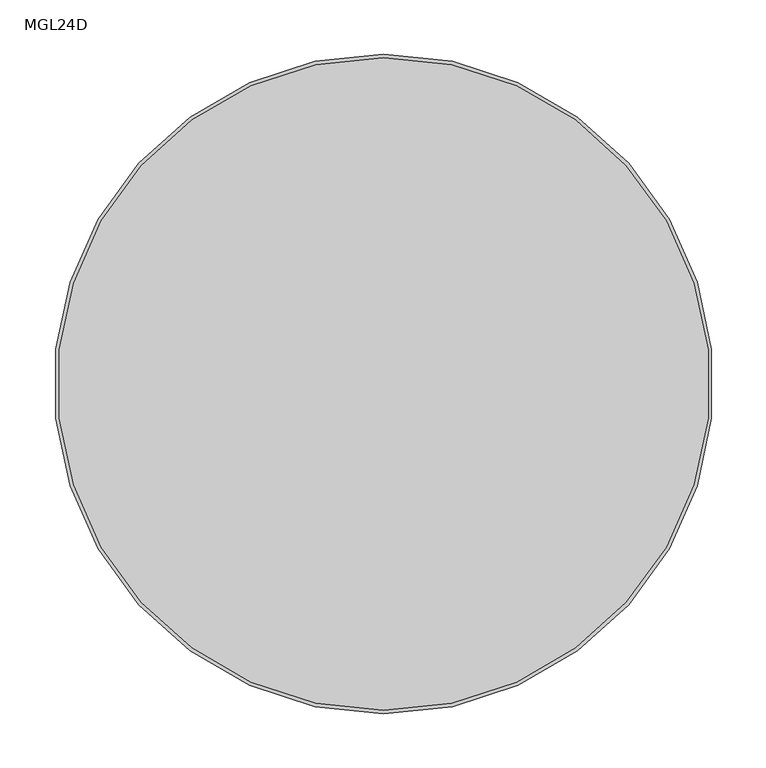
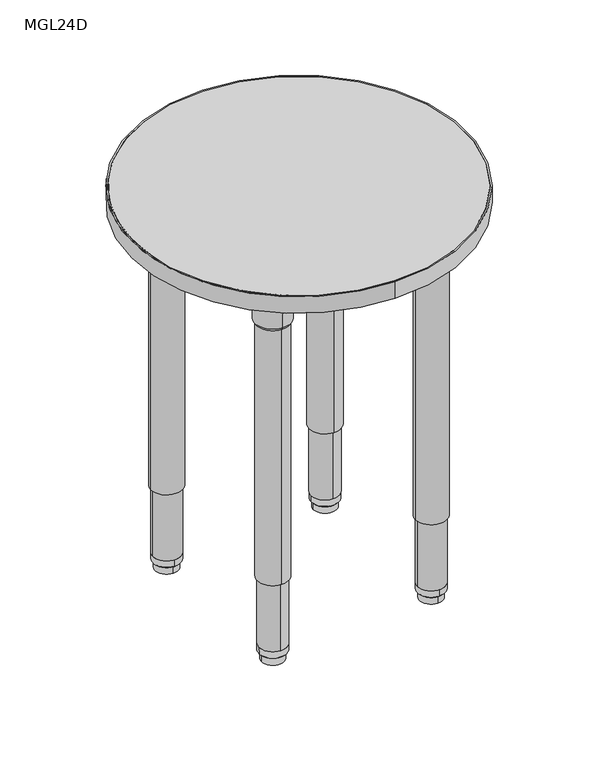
"""IFC4 building model written with IfcOpenShell, lengths in millimetres: furniture geometry, ERG-Mingle-Table-Round : MGL24D."""

from ifc_helpers import new_model, si_unit, point, frame, frame_2d, origin, origin_2d, place, context, project, spatial, polyline, circle_curve, trimmed, segment, composite_curve, outline, extrude, source, transform, mapped, element, save
from ifc_brep_helpers import plane_surface, cylinder_surface, revolved_surface, advanced_brep


def mgl24d_21a6063f(model_context):
    return source(origin(), model_context, "Body", "SolidModel", [
        advanced_brep(
        [(130.0897301, -139.9337798, 650.5933069), (190.1603617, -139.9337798, 650.5933069), (160.1250459, -139.9337798, 650.5933069), (127.9811628, -139.9337798, 654.3580481), (192.2689289, -139.9337798, 654.3580481), (127.045681, -139.9337798, 707.7631458), (193.2044107, -139.9337798, 707.7631458), (123.5961289, -139.9337798, 714.1198315), (196.6539629, -139.9337798, 714.1198315), (123.5961289, -139.9337798, 726.8198315), (196.6539629, -139.9337798, 726.8198315), (160.1250459, -139.9337798, 726.8198315)],
        [
            (0, 1, circle_curve(frame((160.1250459, -139.9337798, 650.5933069), z_axis=(0.0, 0.0, -1.0), x_axis=(1.0, 0.0, 0.0)), 30.0353158)),
            (1, 2),
            (2, 0),
            (1, 0, circle_curve(frame((160.1250459, -139.9337798, 650.5933069), z_axis=(0.0, 0.0, -1.0), x_axis=(1.0, 0.0, 0.0)), 30.0353158)),
            (3, 4, circle_curve(frame((160.1250459, -139.9337798, 654.3580481), z_axis=(0.0, 0.0, -1.0), x_axis=(1.0, 0.0, 0.0)), 32.143883)),
            (4, 1),
            (0, 3),
            (4, 3, circle_curve(frame((160.1250459, -139.9337798, 654.3580481), z_axis=(0.0, 0.0, -1.0), x_axis=(1.0, 0.0, 0.0)), 32.143883)),
            (5, 6, circle_curve(frame((160.1250459, -139.9337798, 707.7631458), z_axis=(0.0, 0.0, -1.0), x_axis=(1.0, 0.0, 0.0)), 33.0793649)),
            (6, 4),
            (3, 5),
            (6, 5, circle_curve(frame((160.1250459, -139.9337798, 707.7631458), z_axis=(0.0, 0.0, -1.0), x_axis=(1.0, 0.0, 0.0)), 33.0793649)),
            (7, 8, circle_curve(frame((160.1250459, -139.9337798, 714.1198315), z_axis=(0.0, 0.0, -1.0), x_axis=(1.0, 0.0, 0.0)), 36.528917)),
            (8, 6),
            (5, 7),
            (8, 7, circle_curve(frame((160.1250459, -139.9337798, 714.1198315), z_axis=(0.0, 0.0, -1.0), x_axis=(1.0, 0.0, 0.0)), 36.528917)),
            (9, 10, circle_curve(frame((160.1250459, -139.9337798, 726.8198315), z_axis=(0.0, 0.0, -1.0), x_axis=(1.0, 0.0, 0.0)), 36.528917)),
            (10, 8),
            (7, 9),
            (10, 9, circle_curve(frame((160.1250459, -139.9337798, 726.8198315), z_axis=(0.0, 0.0, -1.0), x_axis=(1.0, 0.0, 0.0)), 36.528917)),
            (11, 10),
            (9, 11),
        ],
        [
            plane_surface(frame((160.1250459, -139.9337798, 650.5933069), z_axis=(0.0, 0.0, -1.0), x_axis=(1.0, 0.0, 0.0))),
            revolved_surface(polyline([(190.1603617, -139.9337798, 650.5933069), (192.2689289, -139.9337798, 654.3580481)]), (160.1250459, -139.9337798, 726.8198315), (0.0, 0.0, 1.0)),
            revolved_surface(polyline([(192.2689289, -139.9337798, 654.3580481), (193.2044107, -139.9337798, 707.7631458)]), (160.1250459, -139.9337798, 726.8198315), (0.0, 0.0, 1.0)),
            revolved_surface(polyline([(193.2044107, -139.9337798, 707.7631458), (196.6539629, -139.9337798, 714.1198315)]), (160.1250459, -139.9337798, 726.8198315), (0.0, 0.0, 1.0)),
            cylinder_surface(frame((160.1250459, -139.9337798, 726.8198315), z_axis=(0.0, 0.0, 1.0), x_axis=(1.0, 0.0, 0.0)), 36.528917),
            plane_surface(frame((160.1250459, -139.9337798, 726.8198315), z_axis=(0.0, 0.0, 1.0), x_axis=(1.0, 0.0, 0.0))),
        ],
        [
            (0, [[1, 2, 3]]),
            (0, [[4, -3, -2]]),
            (1, [[5, 6, -1, 7]]),
            (1, [[8, -7, -4, -6]]),
            (2, [[9, 10, -5, 11]]),
            (2, [[12, -11, -8, -10]]),
            (3, [[13, 14, -9, 15]]),
            (3, [[16, -15, -12, -14]]),
            (4, [[17, 18, -13, 19]]),
            (4, [[20, -19, -16, -18]]),
            (5, [[21, -17, 22]]),
            (5, [[-22, -20, -21]]),
        ],
    ),
        extrude(outline(composite_curve([segment(polyline([(205.9988139, -57.3561224), (205.9988139, -171.0821553)]), True, "CONTINUOUS"), segment(trimmed(circle_curve(frame_2d((190.1238139, -171.0821553)), 15.875), [point((205.9988139, -171.0821553))], [point((190.1238139, -186.9571553))], False, "CARTESIAN"), True, "CONTINUOUS"), segment(polyline([(190.1238139, -186.9571553), (76.4114664, -186.9571553)]), True, "CONTINUOUS"), segment(trimmed(circle_curve(frame_2d((76.4114664, -174.2571553)), 12.7), [point((76.4114664, -186.9571553))], [point((63.7742382, -172.9960193))], False, "CARTESIAN"), True, "CONTINUOUS"), segment(trimmed(circle_curve(frame_2d((206.2736536, -187.2167915)), 143.2072406), [point((63.7742382, -172.9960193))], [point((192.0361984, -44.719042))], False, "CARTESIAN"), True, "CONTINUOUS"), segment(trimmed(circle_curve(frame_2d((193.2988139, -57.3561224)), 12.7), [point((192.0361984, -44.719042))], [point((205.9988139, -57.3561224))], False, "CARTESIAN"), True, "CONTINUOUS")], self_intersect=False)), frame((0.0, 0.0, 726.8198315), z_axis=(0.0, 0.0, 1.0), x_axis=(1.0, 0.0, 0.0)), (0.0, 0.0, 1.0), 3.4301685),
        extrude(outline(composite_curve([segment(trimmed(circle_curve(frame_2d((160.1250459, -139.9337798)), 28.575), [point((188.7000459, -139.9337798))], [point((131.5500459, -139.9337798))], False, "CARTESIAN"), True, "CONTINUOUS"), segment(trimmed(circle_curve(frame_2d((160.1250459, -139.9337798)), 28.575), [point((131.5500459, -139.9337798))], [point((188.7000459, -139.9337798))], False, "CARTESIAN"), True, "CONTINUOUS")], self_intersect=False)), frame((0.0, 0.0, 158.3876979), z_axis=(0.0, 0.0, 1.0), x_axis=(1.0, 0.0, 0.0)), (0.0, 0.0, 1.0), 495.4089866),
        extrude(outline(composite_curve([segment(trimmed(circle_curve(frame_2d((160.1250459, -139.9337798)), 25.4), [point((185.5250459, -139.9337798))], [point((134.7250459, -139.9337798))], False, "CARTESIAN"), True, "CONTINUOUS"), segment(trimmed(circle_curve(frame_2d((160.1250459, -139.9337798)), 25.4), [point((134.7250459, -139.9337798))], [point((185.5250459, -139.9337798))], False, "CARTESIAN"), True, "CONTINUOUS")], self_intersect=False)), frame((0.0, 0.0, 28.9580435), z_axis=(0.0, 0.0, 1.0), x_axis=(1.0, 0.0, 0.0)), (0.0, 0.0, 1.0), 176.7049119),
        advanced_brep(
        [(160.1250459, -114.6987695, 28.9580185), (160.1250459, -165.1687902, 28.9580185), (160.1250459, -139.9337798, 28.9580185), (160.1250459, -114.8345408, 16.3032949), (160.1250459, -165.0330188, 16.3032949), (160.1250459, -116.3498417, 14.7291007), (160.1250459, -163.517718, 14.7291007), (160.1250459, -118.7929221, 14.7291007), (160.1250459, -161.0746376, 14.7291007), (160.1250459, -118.9859135, 0.0), (160.1250459, -160.8816462, 0.0), (160.1250459, -139.9337798, 0.0)],
        [
            (0, 1, circle_curve(frame((160.1250459, -139.9337798, 28.9580185), z_axis=(0.0, 0.0, 1.0), x_axis=(0.0, -1.0, 0.0)), 25.2350104)),
            (1, 2),
            (2, 0),
            (1, 0, circle_curve(frame((160.1250459, -139.9337798, 28.9580185), z_axis=(0.0, 0.0, 1.0), x_axis=(0.0, -1.0, 0.0)), 25.2350104)),
            (3, 4, circle_curve(frame((160.1250459, -139.9337798, 16.3032949), z_axis=(0.0, 0.0, 1.0), x_axis=(0.0, -1.0, 0.0)), 25.099239)),
            (4, 1),
            (0, 3),
            (4, 3, circle_curve(frame((160.1250459, -139.9337798, 16.3032949), z_axis=(0.0, 0.0, 1.0), x_axis=(0.0, -1.0, 0.0)), 25.099239)),
            (5, 6, circle_curve(frame((160.1250459, -139.9337798, 14.7291007), z_axis=(0.0, 0.0, 1.0), x_axis=(0.0, -1.0, 0.0)), 23.5839381)),
            (6, 4),
            (3, 5),
            (6, 5, circle_curve(frame((160.1250459, -139.9337798, 14.7291007), z_axis=(0.0, 0.0, 1.0), x_axis=(0.0, -1.0, 0.0)), 23.5839381)),
            (7, 8, circle_curve(frame((160.1250459, -139.9337798, 14.7291007), z_axis=(0.0, 0.0, 1.0), x_axis=(0.0, -1.0, 0.0)), 21.1408578)),
            (8, 6),
            (5, 7),
            (8, 7, circle_curve(frame((160.1250459, -139.9337798, 14.7291007), z_axis=(0.0, 0.0, 1.0), x_axis=(0.0, -1.0, 0.0)), 21.1408578)),
            (9, 10, circle_curve(frame((160.1250459, -139.9337798, 0.0), z_axis=(0.0, 0.0, 1.0), x_axis=(0.0, -1.0, 0.0)), 20.9478664)),
            (10, 8),
            (7, 9),
            (10, 9, circle_curve(frame((160.1250459, -139.9337798, 0.0), z_axis=(0.0, 0.0, 1.0), x_axis=(0.0, -1.0, 0.0)), 20.9478664)),
            (11, 10),
            (9, 11),
        ],
        [
            plane_surface(frame((160.1250459, -139.9337798, 28.9580185), z_axis=(0.0, 0.0, 1.0), x_axis=(0.0, -1.0, 0.0))),
            revolved_surface(polyline([(160.1250459, -165.1687902, 28.9580185), (160.1250459, -165.0330188, 16.3032949)]), (160.1250459, -139.9337798, 0.0), (0.0, 0.0, -1.0)),
            revolved_surface(polyline([(160.1250459, -165.0330188, 16.3032949), (160.1250459, -163.517718, 14.7291007)]), (160.1250459, -139.9337798, 0.0), (0.0, 0.0, -1.0)),
            plane_surface(frame((160.1250459, -139.9337798, 14.7291007), z_axis=(0.0, 0.0, -1.0), x_axis=(0.0, -1.0, 0.0))),
            revolved_surface(polyline([(160.1250459, -161.0746376, 14.7291007), (160.1250459, -160.8816462, 0.0)]), (160.1250459, -139.9337798, 0.0), (0.0, 0.0, -1.0)),
            plane_surface(frame((160.1250459, -139.9337798, 0.0), z_axis=(0.0, 0.0, -1.0), x_axis=(0.0, -1.0, 0.0))),
        ],
        [
            (0, [[1, 2, 3]]),
            (0, [[4, -3, -2]]),
            (1, [[5, 6, -1, 7]]),
            (1, [[8, -7, -4, -6]]),
            (2, [[9, 10, -5, 11]]),
            (2, [[12, -11, -8, -10]]),
            (3, [[13, 14, -9, 15]]),
            (3, [[16, -15, -12, -14]]),
            (4, [[17, 18, -13, 19]]),
            (4, [[20, -19, -16, -18]]),
            (5, [[21, -17, 22]]),
            (5, [[-22, -20, -21]]),
        ],
    ),
        advanced_brep(
        [(-139.9337798, -130.0897301, 650.5933069), (-139.9337798, -190.1603617, 650.5933069), (-139.9337798, -160.1250459, 650.5933069), (-139.9337798, -127.9811628, 654.3580481), (-139.9337798, -192.2689289, 654.3580481), (-139.9337798, -127.045681, 707.7631458), (-139.9337798, -193.2044107, 707.7631458), (-139.9337798, -123.5961289, 714.1198315), (-139.9337798, -196.6539629, 714.1198315), (-139.9337798, -123.5961289, 726.8198315), (-139.9337798, -196.6539629, 726.8198315), (-139.9337798, -160.1250459, 726.8198315)],
        [
            (0, 1, circle_curve(frame((-139.9337798, -160.1250459, 650.5933069), z_axis=(0.0, 0.0, -1.0), x_axis=(0.0, -1.0, 0.0)), 30.0353158)),
            (1, 2),
            (2, 0),
            (1, 0, circle_curve(frame((-139.9337798, -160.1250459, 650.5933069), z_axis=(0.0, 0.0, -1.0), x_axis=(0.0, -1.0, 0.0)), 30.0353158)),
            (3, 4, circle_curve(frame((-139.9337798, -160.1250459, 654.3580481), z_axis=(0.0, 0.0, -1.0), x_axis=(0.0, -1.0, 0.0)), 32.143883)),
            (4, 1),
            (0, 3),
            (4, 3, circle_curve(frame((-139.9337798, -160.1250459, 654.3580481), z_axis=(0.0, 0.0, -1.0), x_axis=(0.0, -1.0, 0.0)), 32.143883)),
            (5, 6, circle_curve(frame((-139.9337798, -160.1250459, 707.7631458), z_axis=(0.0, 0.0, -1.0), x_axis=(0.0, -1.0, 0.0)), 33.0793649)),
            (6, 4),
            (3, 5),
            (6, 5, circle_curve(frame((-139.9337798, -160.1250459, 707.7631458), z_axis=(0.0, 0.0, -1.0), x_axis=(0.0, -1.0, 0.0)), 33.0793649)),
            (7, 8, circle_curve(frame((-139.9337798, -160.1250459, 714.1198315), z_axis=(0.0, 0.0, -1.0), x_axis=(0.0, -1.0, 0.0)), 36.528917)),
            (8, 6),
            (5, 7),
            (8, 7, circle_curve(frame((-139.9337798, -160.1250459, 714.1198315), z_axis=(0.0, 0.0, -1.0), x_axis=(0.0, -1.0, 0.0)), 36.528917)),
            (9, 10, circle_curve(frame((-139.9337798, -160.1250459, 726.8198315), z_axis=(0.0, 0.0, -1.0), x_axis=(0.0, -1.0, 0.0)), 36.528917)),
            (10, 8),
            (7, 9),
            (10, 9, circle_curve(frame((-139.9337798, -160.1250459, 726.8198315), z_axis=(0.0, 0.0, -1.0), x_axis=(0.0, -1.0, 0.0)), 36.528917)),
            (11, 10),
            (9, 11),
        ],
        [
            plane_surface(frame((-139.9337798, -160.1250459, 650.5933069), z_axis=(0.0, 0.0, -1.0), x_axis=(0.0, -1.0, 0.0))),
            revolved_surface(polyline([(-139.9337798, -190.1603617, 650.5933069), (-139.9337798, -192.2689289, 654.3580481)]), (-139.9337798, -160.1250459, 726.8198315), (0.0, 0.0, 1.0)),
            revolved_surface(polyline([(-139.9337798, -192.2689289, 654.3580481), (-139.9337798, -193.2044107, 707.7631458)]), (-139.9337798, -160.1250459, 726.8198315), (0.0, 0.0, 1.0)),
            revolved_surface(polyline([(-139.9337798, -193.2044107, 707.7631458), (-139.9337798, -196.6539629, 714.1198315)]), (-139.9337798, -160.1250459, 726.8198315), (0.0, 0.0, 1.0)),
            cylinder_surface(frame((-139.9337798, -160.1250459, 726.8198315), z_axis=(0.0, 0.0, 1.0), x_axis=(0.0, -1.0, 0.0)), 36.528917),
            plane_surface(frame((-139.9337798, -160.1250459, 726.8198315), z_axis=(0.0, 0.0, 1.0), x_axis=(0.0, -1.0, 0.0))),
        ],
        [
            (0, [[1, 2, 3]]),
            (0, [[4, -3, -2]]),
            (1, [[5, 6, -1, 7]]),
            (1, [[8, -7, -4, -6]]),
            (2, [[9, 10, -5, 11]]),
            (2, [[12, -11, -8, -10]]),
            (3, [[13, 14, -9, 15]]),
            (3, [[16, -15, -12, -14]]),
            (4, [[17, 18, -13, 19]]),
            (4, [[20, -19, -16, -18]]),
            (5, [[21, -17, 22]]),
            (5, [[-22, -20, -21]]),
        ],
    ),
        extrude(outline(composite_curve([segment(polyline([(-57.3561224, -205.9988139), (-171.0821553, -205.9988139)]), True, "CONTINUOUS"), segment(trimmed(circle_curve(frame_2d((-171.0821553, -190.1238139)), 15.875), [point((-171.0821553, -205.9988139))], [point((-186.9571553, -190.1238139))], False, "CARTESIAN"), True, "CONTINUOUS"), segment(polyline([(-186.9571553, -190.1238139), (-186.9571553, -76.4114664)]), True, "CONTINUOUS"), segment(trimmed(circle_curve(frame_2d((-174.2571553, -76.4114664)), 12.7), [point((-186.9571553, -76.4114664))], [point((-172.9960193, -63.7742382))], False, "CARTESIAN"), True, "CONTINUOUS"), segment(trimmed(circle_curve(frame_2d((-187.2167915, -206.2736536)), 143.2072406), [point((-172.9960193, -63.7742382))], [point((-44.719042, -192.0361984))], False, "CARTESIAN"), True, "CONTINUOUS"), segment(trimmed(circle_curve(frame_2d((-57.3561224, -193.2988139)), 12.7), [point((-44.719042, -192.0361984))], [point((-57.3561224, -205.9988139))], False, "CARTESIAN"), True, "CONTINUOUS")], self_intersect=False)), frame((0.0, 0.0, 726.8198315), z_axis=(0.0, 0.0, 1.0), x_axis=(1.0, 0.0, 0.0)), (0.0, 0.0, 1.0), 3.4301685),
        extrude(outline(composite_curve([segment(trimmed(circle_curve(frame_2d((-139.9337798, -160.1250459)), 28.575), [point((-139.9337798, -188.7000459))], [point((-139.9337798, -131.5500459))], False, "CARTESIAN"), True, "CONTINUOUS"), segment(trimmed(circle_curve(frame_2d((-139.9337798, -160.1250459)), 28.575), [point((-139.9337798, -131.5500459))], [point((-139.9337798, -188.7000459))], False, "CARTESIAN"), True, "CONTINUOUS")], self_intersect=False)), frame((0.0, 0.0, 158.3876979), z_axis=(0.0, 0.0, 1.0), x_axis=(1.0, 0.0, 0.0)), (0.0, 0.0, 1.0), 495.4089866),
        extrude(outline(composite_curve([segment(trimmed(circle_curve(frame_2d((-139.9337798, -160.1250459)), 25.4), [point((-139.9337798, -185.5250459))], [point((-139.9337798, -134.7250459))], False, "CARTESIAN"), True, "CONTINUOUS"), segment(trimmed(circle_curve(frame_2d((-139.9337798, -160.1250459)), 25.4), [point((-139.9337798, -134.7250459))], [point((-139.9337798, -185.5250459))], False, "CARTESIAN"), True, "CONTINUOUS")], self_intersect=False)), frame((0.0, 0.0, 28.9580435), z_axis=(0.0, 0.0, 1.0), x_axis=(1.0, 0.0, 0.0)), (0.0, 0.0, 1.0), 176.7049119),
        advanced_brep(
        [(-114.6987695, -160.1250459, 28.9580185), (-165.1687902, -160.1250459, 28.9580185), (-139.9337798, -160.1250459, 28.9580185), (-114.8345408, -160.1250459, 16.3032949), (-165.0330188, -160.1250459, 16.3032949), (-116.3498417, -160.1250459, 14.7291007), (-163.517718, -160.1250459, 14.7291007), (-118.7929221, -160.1250459, 14.7291007), (-161.0746376, -160.1250459, 14.7291007), (-118.9859135, -160.1250459, 0.0), (-160.8816462, -160.1250459, 0.0), (-139.9337798, -160.1250459, 0.0)],
        [
            (0, 1, circle_curve(frame((-139.9337798, -160.1250459, 28.9580185), z_axis=(0.0, 0.0, 1.0), x_axis=(-1.0, 0.0, 0.0)), 25.2350104)),
            (1, 2),
            (2, 0),
            (1, 0, circle_curve(frame((-139.9337798, -160.1250459, 28.9580185), z_axis=(0.0, 0.0, 1.0), x_axis=(-1.0, 0.0, 0.0)), 25.2350104)),
            (3, 4, circle_curve(frame((-139.9337798, -160.1250459, 16.3032949), z_axis=(0.0, 0.0, 1.0), x_axis=(-1.0, 0.0, 0.0)), 25.099239)),
            (4, 1),
            (0, 3),
            (4, 3, circle_curve(frame((-139.9337798, -160.1250459, 16.3032949), z_axis=(0.0, 0.0, 1.0), x_axis=(-1.0, 0.0, 0.0)), 25.099239)),
            (5, 6, circle_curve(frame((-139.9337798, -160.1250459, 14.7291007), z_axis=(0.0, 0.0, 1.0), x_axis=(-1.0, 0.0, 0.0)), 23.5839381)),
            (6, 4),
            (3, 5),
            (6, 5, circle_curve(frame((-139.9337798, -160.1250459, 14.7291007), z_axis=(0.0, 0.0, 1.0), x_axis=(-1.0, 0.0, 0.0)), 23.5839381)),
            (7, 8, circle_curve(frame((-139.9337798, -160.1250459, 14.7291007), z_axis=(0.0, 0.0, 1.0), x_axis=(-1.0, 0.0, 0.0)), 21.1408578)),
            (8, 6),
            (5, 7),
            (8, 7, circle_curve(frame((-139.9337798, -160.1250459, 14.7291007), z_axis=(0.0, 0.0, 1.0), x_axis=(-1.0, 0.0, 0.0)), 21.1408578)),
            (9, 10, circle_curve(frame((-139.9337798, -160.1250459, 0.0), z_axis=(0.0, 0.0, 1.0), x_axis=(-1.0, 0.0, 0.0)), 20.9478664)),
            (10, 8),
            (7, 9),
            (10, 9, circle_curve(frame((-139.9337798, -160.1250459, 0.0), z_axis=(0.0, 0.0, 1.0), x_axis=(-1.0, 0.0, 0.0)), 20.9478664)),
            (11, 10),
            (9, 11),
        ],
        [
            plane_surface(frame((-139.9337798, -160.1250459, 28.9580185), z_axis=(0.0, 0.0, 1.0), x_axis=(-1.0, 0.0, 0.0))),
            revolved_surface(polyline([(-165.1687902, -160.1250459, 28.9580185), (-165.0330188, -160.1250459, 16.3032949)]), (-139.9337798, -160.1250459, 0.0), (0.0, 0.0, -1.0)),
            revolved_surface(polyline([(-165.0330188, -160.1250459, 16.3032949), (-163.517718, -160.1250459, 14.7291007)]), (-139.9337798, -160.1250459, 0.0), (0.0, 0.0, -1.0)),
            plane_surface(frame((-139.9337798, -160.1250459, 14.7291007), z_axis=(0.0, 0.0, -1.0), x_axis=(-1.0, 0.0, 0.0))),
            revolved_surface(polyline([(-161.0746376, -160.1250459, 14.7291007), (-160.8816462, -160.1250459, 0.0)]), (-139.9337798, -160.1250459, 0.0), (0.0, 0.0, -1.0)),
            plane_surface(frame((-139.9337798, -160.1250459, 0.0), z_axis=(0.0, 0.0, -1.0), x_axis=(-1.0, 0.0, 0.0))),
        ],
        [
            (0, [[1, 2, 3]]),
            (0, [[4, -3, -2]]),
            (1, [[5, 6, -1, 7]]),
            (1, [[8, -7, -4, -6]]),
            (2, [[9, 10, -5, 11]]),
            (2, [[12, -11, -8, -10]]),
            (3, [[13, 14, -9, 15]]),
            (3, [[16, -15, -12, -14]]),
            (4, [[17, 18, -13, 19]]),
            (4, [[20, -19, -16, -18]]),
            (5, [[21, -17, 22]]),
            (5, [[-22, -20, -21]]),
        ],
    ),
        advanced_brep(
        [(139.9337798, 130.0897301, 650.5933069), (139.9337798, 190.1603617, 650.5933069), (139.9337798, 160.1250459, 650.5933069), (139.9337798, 127.9811628, 654.3580481), (139.9337798, 192.2689289, 654.3580481), (139.9337798, 127.045681, 707.7631458), (139.9337798, 193.2044107, 707.7631458), (139.9337798, 123.5961289, 714.1198315), (139.9337798, 196.6539629, 714.1198315), (139.9337798, 123.5961289, 726.8198315), (139.9337798, 196.6539629, 726.8198315), (139.9337798, 160.1250459, 726.8198315)],
        [
            (0, 1, circle_curve(frame((139.9337798, 160.1250459, 650.5933069), z_axis=(0.0, 0.0, -1.0), x_axis=(0.0, 1.0, 0.0)), 30.0353158)),
            (1, 2),
            (2, 0),
            (1, 0, circle_curve(frame((139.9337798, 160.1250459, 650.5933069), z_axis=(0.0, 0.0, -1.0), x_axis=(0.0, 1.0, 0.0)), 30.0353158)),
            (3, 4, circle_curve(frame((139.9337798, 160.1250459, 654.3580481), z_axis=(0.0, 0.0, -1.0), x_axis=(0.0, 1.0, 0.0)), 32.143883)),
            (4, 1),
            (0, 3),
            (4, 3, circle_curve(frame((139.9337798, 160.1250459, 654.3580481), z_axis=(0.0, 0.0, -1.0), x_axis=(0.0, 1.0, 0.0)), 32.143883)),
            (5, 6, circle_curve(frame((139.9337798, 160.1250459, 707.7631458), z_axis=(0.0, 0.0, -1.0), x_axis=(0.0, 1.0, 0.0)), 33.0793649)),
            (6, 4),
            (3, 5),
            (6, 5, circle_curve(frame((139.9337798, 160.1250459, 707.7631458), z_axis=(0.0, 0.0, -1.0), x_axis=(0.0, 1.0, 0.0)), 33.0793649)),
            (7, 8, circle_curve(frame((139.9337798, 160.1250459, 714.1198315), z_axis=(0.0, 0.0, -1.0), x_axis=(0.0, 1.0, 0.0)), 36.528917)),
            (8, 6),
            (5, 7),
            (8, 7, circle_curve(frame((139.9337798, 160.1250459, 714.1198315), z_axis=(0.0, 0.0, -1.0), x_axis=(0.0, 1.0, 0.0)), 36.528917)),
            (9, 10, circle_curve(frame((139.9337798, 160.1250459, 726.8198315), z_axis=(0.0, 0.0, -1.0), x_axis=(0.0, 1.0, 0.0)), 36.528917)),
            (10, 8),
            (7, 9),
            (10, 9, circle_curve(frame((139.9337798, 160.1250459, 726.8198315), z_axis=(0.0, 0.0, -1.0), x_axis=(0.0, 1.0, 0.0)), 36.528917)),
            (11, 10),
            (9, 11),
        ],
        [
            plane_surface(frame((139.9337798, 160.1250459, 650.5933069), z_axis=(0.0, 0.0, -1.0), x_axis=(0.0, 1.0, 0.0))),
            revolved_surface(polyline([(139.9337798, 190.1603617, 650.5933069), (139.9337798, 192.2689289, 654.3580481)]), (139.9337798, 160.1250459, 726.8198315), (0.0, 0.0, 1.0)),
            revolved_surface(polyline([(139.9337798, 192.2689289, 654.3580481), (139.9337798, 193.2044107, 707.7631458)]), (139.9337798, 160.1250459, 726.8198315), (0.0, 0.0, 1.0)),
            revolved_surface(polyline([(139.9337798, 193.2044107, 707.7631458), (139.9337798, 196.6539629, 714.1198315)]), (139.9337798, 160.1250459, 726.8198315), (0.0, 0.0, 1.0)),
            cylinder_surface(frame((139.9337798, 160.1250459, 726.8198315), z_axis=(0.0, 0.0, 1.0), x_axis=(0.0, 1.0, 0.0)), 36.528917),
            plane_surface(frame((139.9337798, 160.1250459, 726.8198315), z_axis=(0.0, 0.0, 1.0), x_axis=(0.0, 1.0, 0.0))),
        ],
        [
            (0, [[1, 2, 3]]),
            (0, [[4, -3, -2]]),
            (1, [[5, 6, -1, 7]]),
            (1, [[8, -7, -4, -6]]),
            (2, [[9, 10, -5, 11]]),
            (2, [[12, -11, -8, -10]]),
            (3, [[13, 14, -9, 15]]),
            (3, [[16, -15, -12, -14]]),
            (4, [[17, 18, -13, 19]]),
            (4, [[20, -19, -16, -18]]),
            (5, [[21, -17, 22]]),
            (5, [[-22, -20, -21]]),
        ],
    ),
        extrude(outline(composite_curve([segment(polyline([(57.3561224, 205.9988139), (171.0821553, 205.9988139)]), True, "CONTINUOUS"), segment(trimmed(circle_curve(frame_2d((171.0821553, 190.1238139)), 15.875), [point((171.0821553, 205.9988139))], [point((186.9571553, 190.1238139))], False, "CARTESIAN"), True, "CONTINUOUS"), segment(polyline([(186.9571553, 190.1238139), (186.9571553, 76.4114664)]), True, "CONTINUOUS"), segment(trimmed(circle_curve(frame_2d((174.2571553, 76.4114664)), 12.7), [point((186.9571553, 76.4114664))], [point((172.9960193, 63.7742382))], False, "CARTESIAN"), True, "CONTINUOUS"), segment(trimmed(circle_curve(frame_2d((187.2167915, 206.2736536)), 143.2072406), [point((172.9960193, 63.7742382))], [point((44.719042, 192.0361984))], False, "CARTESIAN"), True, "CONTINUOUS"), segment(trimmed(circle_curve(frame_2d((57.3561224, 193.2988139)), 12.7), [point((44.719042, 192.0361984))], [point((57.3561224, 205.9988139))], False, "CARTESIAN"), True, "CONTINUOUS")], self_intersect=False)), frame((0.0, 0.0, 726.8198315), z_axis=(0.0, 0.0, 1.0), x_axis=(1.0, 0.0, 0.0)), (0.0, 0.0, 1.0), 3.4301685),
        extrude(outline(composite_curve([segment(trimmed(circle_curve(frame_2d((139.9337798, 160.1250459)), 28.575), [point((139.9337798, 188.7000459))], [point((139.9337798, 131.5500459))], False, "CARTESIAN"), True, "CONTINUOUS"), segment(trimmed(circle_curve(frame_2d((139.9337798, 160.1250459)), 28.575), [point((139.9337798, 131.5500459))], [point((139.9337798, 188.7000459))], False, "CARTESIAN"), True, "CONTINUOUS")], self_intersect=False)), frame((0.0, 0.0, 158.3876979), z_axis=(0.0, 0.0, 1.0), x_axis=(1.0, 0.0, 0.0)), (0.0, 0.0, 1.0), 495.4089866),
        extrude(outline(composite_curve([segment(trimmed(circle_curve(frame_2d((139.9337798, 160.1250459)), 25.4), [point((139.9337798, 185.5250459))], [point((139.9337798, 134.7250459))], False, "CARTESIAN"), True, "CONTINUOUS"), segment(trimmed(circle_curve(frame_2d((139.9337798, 160.1250459)), 25.4), [point((139.9337798, 134.7250459))], [point((139.9337798, 185.5250459))], False, "CARTESIAN"), True, "CONTINUOUS")], self_intersect=False)), frame((0.0, 0.0, 28.9580435), z_axis=(0.0, 0.0, 1.0), x_axis=(1.0, 0.0, 0.0)), (0.0, 0.0, 1.0), 176.7049119),
        advanced_brep(
        [(114.6987695, 160.1250459, 28.9580185), (165.1687902, 160.1250459, 28.9580185), (139.9337798, 160.1250459, 28.9580185), (114.8345408, 160.1250459, 16.3032949), (165.0330188, 160.1250459, 16.3032949), (116.3498417, 160.1250459, 14.7291007), (163.517718, 160.1250459, 14.7291007), (118.7929221, 160.1250459, 14.7291007), (161.0746376, 160.1250459, 14.7291007), (118.9859135, 160.1250459, 0.0), (160.8816462, 160.1250459, 0.0), (139.9337798, 160.1250459, 0.0)],
        [
            (0, 1, circle_curve(frame((139.9337798, 160.1250459, 28.9580185), z_axis=(0.0, 0.0, 1.0), x_axis=(1.0, 0.0, 0.0)), 25.2350104)),
            (1, 2),
            (2, 0),
            (1, 0, circle_curve(frame((139.9337798, 160.1250459, 28.9580185), z_axis=(0.0, 0.0, 1.0), x_axis=(1.0, 0.0, 0.0)), 25.2350104)),
            (3, 4, circle_curve(frame((139.9337798, 160.1250459, 16.3032949), z_axis=(0.0, 0.0, 1.0), x_axis=(1.0, 0.0, 0.0)), 25.099239)),
            (4, 1),
            (0, 3),
            (4, 3, circle_curve(frame((139.9337798, 160.1250459, 16.3032949), z_axis=(0.0, 0.0, 1.0), x_axis=(1.0, 0.0, 0.0)), 25.099239)),
            (5, 6, circle_curve(frame((139.9337798, 160.1250459, 14.7291007), z_axis=(0.0, 0.0, 1.0), x_axis=(1.0, 0.0, 0.0)), 23.5839381)),
            (6, 4),
            (3, 5),
            (6, 5, circle_curve(frame((139.9337798, 160.1250459, 14.7291007), z_axis=(0.0, 0.0, 1.0), x_axis=(1.0, 0.0, 0.0)), 23.5839381)),
            (7, 8, circle_curve(frame((139.9337798, 160.1250459, 14.7291007), z_axis=(0.0, 0.0, 1.0), x_axis=(1.0, 0.0, 0.0)), 21.1408578)),
            (8, 6),
            (5, 7),
            (8, 7, circle_curve(frame((139.9337798, 160.1250459, 14.7291007), z_axis=(0.0, 0.0, 1.0), x_axis=(1.0, 0.0, 0.0)), 21.1408578)),
            (9, 10, circle_curve(frame((139.9337798, 160.1250459, 0.0), z_axis=(0.0, 0.0, 1.0), x_axis=(1.0, 0.0, 0.0)), 20.9478664)),
            (10, 8),
            (7, 9),
            (10, 9, circle_curve(frame((139.9337798, 160.1250459, 0.0), z_axis=(0.0, 0.0, 1.0), x_axis=(1.0, 0.0, 0.0)), 20.9478664)),
            (11, 10),
            (9, 11),
        ],
        [
            plane_surface(frame((139.9337798, 160.1250459, 28.9580185), z_axis=(0.0, 0.0, 1.0), x_axis=(1.0, 0.0, 0.0))),
            revolved_surface(polyline([(165.1687902, 160.1250459, 28.9580185), (165.0330188, 160.1250459, 16.3032949)]), (139.9337798, 160.1250459, 0.0), (0.0, 0.0, -1.0)),
            revolved_surface(polyline([(165.0330188, 160.1250459, 16.3032949), (163.517718, 160.1250459, 14.7291007)]), (139.9337798, 160.1250459, 0.0), (0.0, 0.0, -1.0)),
            plane_surface(frame((139.9337798, 160.1250459, 14.7291007), z_axis=(0.0, 0.0, -1.0), x_axis=(1.0, 0.0, 0.0))),
            revolved_surface(polyline([(161.0746376, 160.1250459, 14.7291007), (160.8816462, 160.1250459, 0.0)]), (139.9337798, 160.1250459, 0.0), (0.0, 0.0, -1.0)),
            plane_surface(frame((139.9337798, 160.1250459, 0.0), z_axis=(0.0, 0.0, -1.0), x_axis=(1.0, 0.0, 0.0))),
        ],
        [
            (0, [[1, 2, 3]]),
            (0, [[4, -3, -2]]),
            (1, [[5, 6, -1, 7]]),
            (1, [[8, -7, -4, -6]]),
            (2, [[9, 10, -5, 11]]),
            (2, [[12, -11, -8, -10]]),
            (3, [[13, 14, -9, 15]]),
            (3, [[16, -15, -12, -14]]),
            (4, [[17, 18, -13, 19]]),
            (4, [[20, -19, -16, -18]]),
            (5, [[21, -17, 22]]),
            (5, [[-22, -20, -21]]),
        ],
    ),
        advanced_brep(
        [(-130.0897301, 139.9337798, 650.5933069), (-190.1603617, 139.9337798, 650.5933069), (-160.1250459, 139.9337798, 650.5933069), (-127.9811628, 139.9337798, 654.3580481), (-192.2689289, 139.9337798, 654.3580481), (-127.045681, 139.9337798, 707.7631458), (-193.2044107, 139.9337798, 707.7631458), (-123.5961289, 139.9337798, 714.1198315), (-196.6539629, 139.9337798, 714.1198315), (-123.5961289, 139.9337798, 726.8198315), (-196.6539629, 139.9337798, 726.8198315), (-160.1250459, 139.9337798, 726.8198315)],
        [
            (0, 1, circle_curve(frame((-160.1250459, 139.9337798, 650.5933069), z_axis=(0.0, 0.0, -1.0), x_axis=(-1.0, 0.0, 0.0)), 30.0353158)),
            (1, 2),
            (2, 0),
            (1, 0, circle_curve(frame((-160.1250459, 139.9337798, 650.5933069), z_axis=(0.0, 0.0, -1.0), x_axis=(-1.0, 0.0, 0.0)), 30.0353158)),
            (3, 4, circle_curve(frame((-160.1250459, 139.9337798, 654.3580481), z_axis=(0.0, 0.0, -1.0), x_axis=(-1.0, 0.0, 0.0)), 32.143883)),
            (4, 1),
            (0, 3),
            (4, 3, circle_curve(frame((-160.1250459, 139.9337798, 654.3580481), z_axis=(0.0, 0.0, -1.0), x_axis=(-1.0, 0.0, 0.0)), 32.143883)),
            (5, 6, circle_curve(frame((-160.1250459, 139.9337798, 707.7631458), z_axis=(0.0, 0.0, -1.0), x_axis=(-1.0, 0.0, 0.0)), 33.0793649)),
            (6, 4),
            (3, 5),
            (6, 5, circle_curve(frame((-160.1250459, 139.9337798, 707.7631458), z_axis=(0.0, 0.0, -1.0), x_axis=(-1.0, 0.0, 0.0)), 33.0793649)),
            (7, 8, circle_curve(frame((-160.1250459, 139.9337798, 714.1198315), z_axis=(0.0, 0.0, -1.0), x_axis=(-1.0, 0.0, 0.0)), 36.528917)),
            (8, 6),
            (5, 7),
            (8, 7, circle_curve(frame((-160.1250459, 139.9337798, 714.1198315), z_axis=(0.0, 0.0, -1.0), x_axis=(-1.0, 0.0, 0.0)), 36.528917)),
            (9, 10, circle_curve(frame((-160.1250459, 139.9337798, 726.8198315), z_axis=(0.0, 0.0, -1.0), x_axis=(-1.0, 0.0, 0.0)), 36.528917)),
            (10, 8),
            (7, 9),
            (10, 9, circle_curve(frame((-160.1250459, 139.9337798, 726.8198315), z_axis=(0.0, 0.0, -1.0), x_axis=(-1.0, 0.0, 0.0)), 36.528917)),
            (11, 10),
            (9, 11),
        ],
        [
            plane_surface(frame((-160.1250459, 139.9337798, 650.5933069), z_axis=(0.0, 0.0, -1.0), x_axis=(-1.0, 0.0, 0.0))),
            revolved_surface(polyline([(-190.1603617, 139.9337798, 650.5933069), (-192.2689289, 139.9337798, 654.3580481)]), (-160.1250459, 139.9337798, 726.8198315), (0.0, 0.0, 1.0)),
            revolved_surface(polyline([(-192.2689289, 139.9337798, 654.3580481), (-193.2044107, 139.9337798, 707.7631458)]), (-160.1250459, 139.9337798, 726.8198315), (0.0, 0.0, 1.0)),
            revolved_surface(polyline([(-193.2044107, 139.9337798, 707.7631458), (-196.6539629, 139.9337798, 714.1198315)]), (-160.1250459, 139.9337798, 726.8198315), (0.0, 0.0, 1.0)),
            cylinder_surface(frame((-160.1250459, 139.9337798, 726.8198315), z_axis=(0.0, 0.0, 1.0), x_axis=(-1.0, 0.0, 0.0)), 36.528917),
            plane_surface(frame((-160.1250459, 139.9337798, 726.8198315), z_axis=(0.0, 0.0, 1.0), x_axis=(-1.0, 0.0, 0.0))),
        ],
        [
            (0, [[1, 2, 3]]),
            (0, [[4, -3, -2]]),
            (1, [[5, 6, -1, 7]]),
            (1, [[8, -7, -4, -6]]),
            (2, [[9, 10, -5, 11]]),
            (2, [[12, -11, -8, -10]]),
            (3, [[13, 14, -9, 15]]),
            (3, [[16, -15, -12, -14]]),
            (4, [[17, 18, -13, 19]]),
            (4, [[20, -19, -16, -18]]),
            (5, [[21, -17, 22]]),
            (5, [[-22, -20, -21]]),
        ],
    ),
        extrude(outline(composite_curve([segment(polyline([(-205.9988139, 57.3561224), (-205.9988139, 171.0821553)]), True, "CONTINUOUS"), segment(trimmed(circle_curve(frame_2d((-190.1238139, 171.0821553)), 15.875), [point((-205.9988139, 171.0821553))], [point((-190.1238139, 186.9571553))], False, "CARTESIAN"), True, "CONTINUOUS"), segment(polyline([(-190.1238139, 186.9571553), (-76.4114664, 186.9571553)]), True, "CONTINUOUS"), segment(trimmed(circle_curve(frame_2d((-76.4114664, 174.2571553)), 12.7), [point((-76.4114664, 186.9571553))], [point((-63.7742382, 172.9960193))], False, "CARTESIAN"), True, "CONTINUOUS"), segment(trimmed(circle_curve(frame_2d((-206.2736536, 187.2167915)), 143.2072406), [point((-63.7742382, 172.9960193))], [point((-192.0361984, 44.719042))], False, "CARTESIAN"), True, "CONTINUOUS"), segment(trimmed(circle_curve(frame_2d((-193.2988139, 57.3561224)), 12.7), [point((-192.0361984, 44.719042))], [point((-205.9988139, 57.3561224))], False, "CARTESIAN"), True, "CONTINUOUS")], self_intersect=False)), frame((0.0, 0.0, 726.8198315), z_axis=(0.0, 0.0, 1.0), x_axis=(1.0, 0.0, 0.0)), (0.0, 0.0, 1.0), 3.4301685),
        extrude(outline(composite_curve([segment(trimmed(circle_curve(frame_2d((-160.1250459, 139.9337798)), 28.575), [point((-188.7000459, 139.9337798))], [point((-131.5500459, 139.9337798))], False, "CARTESIAN"), True, "CONTINUOUS"), segment(trimmed(circle_curve(frame_2d((-160.1250459, 139.9337798)), 28.575), [point((-131.5500459, 139.9337798))], [point((-188.7000459, 139.9337798))], False, "CARTESIAN"), True, "CONTINUOUS")], self_intersect=False)), frame((0.0, 0.0, 158.3876979), z_axis=(0.0, 0.0, 1.0), x_axis=(1.0, 0.0, 0.0)), (0.0, 0.0, 1.0), 495.4089866),
        extrude(outline(composite_curve([segment(trimmed(circle_curve(frame_2d((-160.1250459, 139.9337798)), 25.4), [point((-185.5250459, 139.9337798))], [point((-134.7250459, 139.9337798))], False, "CARTESIAN"), True, "CONTINUOUS"), segment(trimmed(circle_curve(frame_2d((-160.1250459, 139.9337798)), 25.4), [point((-134.7250459, 139.9337798))], [point((-185.5250459, 139.9337798))], False, "CARTESIAN"), True, "CONTINUOUS")], self_intersect=False)), frame((0.0, 0.0, 28.9580435), z_axis=(0.0, 0.0, 1.0), x_axis=(1.0, 0.0, 0.0)), (0.0, 0.0, 1.0), 176.7049119),
        advanced_brep(
        [(-160.1250459, 114.6987695, 28.9580185), (-160.1250459, 165.1687902, 28.9580185), (-160.1250459, 139.9337798, 28.9580185), (-160.1250459, 114.8345408, 16.3032949), (-160.1250459, 165.0330188, 16.3032949), (-160.1250459, 116.3498417, 14.7291007), (-160.1250459, 163.517718, 14.7291007), (-160.1250459, 118.7929221, 14.7291007), (-160.1250459, 161.0746376, 14.7291007), (-160.1250459, 118.9859135, 0.0), (-160.1250459, 160.8816462, 0.0), (-160.1250459, 139.9337798, 0.0)],
        [
            (0, 1, circle_curve(frame((-160.1250459, 139.9337798, 28.9580185), z_axis=(0.0, 0.0, 1.0), x_axis=(0.0, 1.0, 0.0)), 25.2350104)),
            (1, 2),
            (2, 0),
            (1, 0, circle_curve(frame((-160.1250459, 139.9337798, 28.9580185), z_axis=(0.0, 0.0, 1.0), x_axis=(0.0, 1.0, 0.0)), 25.2350104)),
            (3, 4, circle_curve(frame((-160.1250459, 139.9337798, 16.3032949), z_axis=(0.0, 0.0, 1.0), x_axis=(0.0, 1.0, 0.0)), 25.099239)),
            (4, 1),
            (0, 3),
            (4, 3, circle_curve(frame((-160.1250459, 139.9337798, 16.3032949), z_axis=(0.0, 0.0, 1.0), x_axis=(0.0, 1.0, 0.0)), 25.099239)),
            (5, 6, circle_curve(frame((-160.1250459, 139.9337798, 14.7291007), z_axis=(0.0, 0.0, 1.0), x_axis=(0.0, 1.0, 0.0)), 23.5839381)),
            (6, 4),
            (3, 5),
            (6, 5, circle_curve(frame((-160.1250459, 139.9337798, 14.7291007), z_axis=(0.0, 0.0, 1.0), x_axis=(0.0, 1.0, 0.0)), 23.5839381)),
            (7, 8, circle_curve(frame((-160.1250459, 139.9337798, 14.7291007), z_axis=(0.0, 0.0, 1.0), x_axis=(0.0, 1.0, 0.0)), 21.1408578)),
            (8, 6),
            (5, 7),
            (8, 7, circle_curve(frame((-160.1250459, 139.9337798, 14.7291007), z_axis=(0.0, 0.0, 1.0), x_axis=(0.0, 1.0, 0.0)), 21.1408578)),
            (9, 10, circle_curve(frame((-160.1250459, 139.9337798, 0.0), z_axis=(0.0, 0.0, 1.0), x_axis=(0.0, 1.0, 0.0)), 20.9478664)),
            (10, 8),
            (7, 9),
            (10, 9, circle_curve(frame((-160.1250459, 139.9337798, 0.0), z_axis=(0.0, 0.0, 1.0), x_axis=(0.0, 1.0, 0.0)), 20.9478664)),
            (11, 10),
            (9, 11),
        ],
        [
            plane_surface(frame((-160.1250459, 139.9337798, 28.9580185), z_axis=(0.0, 0.0, 1.0), x_axis=(0.0, 1.0, 0.0))),
            revolved_surface(polyline([(-160.1250459, 165.1687902, 28.9580185), (-160.1250459, 165.0330188, 16.3032949)]), (-160.1250459, 139.9337798, 0.0), (0.0, 0.0, -1.0)),
            revolved_surface(polyline([(-160.1250459, 165.0330188, 16.3032949), (-160.1250459, 163.517718, 14.7291007)]), (-160.1250459, 139.9337798, 0.0), (0.0, 0.0, -1.0)),
            plane_surface(frame((-160.1250459, 139.9337798, 14.7291007), z_axis=(0.0, 0.0, -1.0), x_axis=(0.0, 1.0, 0.0))),
            revolved_surface(polyline([(-160.1250459, 161.0746376, 14.7291007), (-160.1250459, 160.8816462, 0.0)]), (-160.1250459, 139.9337798, 0.0), (0.0, 0.0, -1.0)),
            plane_surface(frame((-160.1250459, 139.9337798, 0.0), z_axis=(0.0, 0.0, -1.0), x_axis=(0.0, 1.0, 0.0))),
        ],
        [
            (0, [[1, 2, 3]]),
            (0, [[4, -3, -2]]),
            (1, [[5, 6, -1, 7]]),
            (1, [[8, -7, -4, -6]]),
            (2, [[9, 10, -5, 11]]),
            (2, [[12, -11, -8, -10]]),
            (3, [[13, 14, -9, 15]]),
            (3, [[16, -15, -12, -14]]),
            (4, [[17, 18, -13, 19]]),
            (4, [[20, -19, -16, -18]]),
            (5, [[21, -17, 22]]),
            (5, [[-22, -20, -21]]),
        ],
    ),
        extrude(outline(composite_curve([segment(trimmed(circle_curve(origin_2d(), 301.625), [point((0.0, -301.625))], [point((0.0, 301.625))], False, "CARTESIAN"), True, "CONTINUOUS"), segment(trimmed(circle_curve(origin_2d(), 301.625), [point((0.0, 301.625))], [point((0.0, -301.625))], False, "CARTESIAN"), True, "CONTINUOUS")], self_intersect=False)), frame((0.0, 0.0, 730.25), z_axis=(0.0, 0.0, 1.0), x_axis=(1.0, 0.0, 0.0)), (0.0, 0.0, 1.0), 31.75),
        extrude(outline(composite_curve([segment(trimmed(circle_curve(origin_2d(), 304.8), [point((0.0, -304.8))], [point((0.0, 304.8))], False, "CARTESIAN"), True, "CONTINUOUS"), segment(trimmed(circle_curve(origin_2d(), 304.8), [point((0.0, 304.8))], [point((0.0, -304.8))], False, "CARTESIAN"), True, "CONTINUOUS")], self_intersect=False), holes=[composite_curve([segment(trimmed(circle_curve(origin_2d(), 301.625), [point((0.0, 301.625))], [point((0.0, -301.625))], True, "CARTESIAN"), True, "CONTINUOUS"), segment(trimmed(circle_curve(origin_2d(), 301.625), [point((0.0, -301.625))], [point((0.0, 301.625))], True, "CARTESIAN"), True, "CONTINUOUS")], self_intersect=False)]), frame((0.0, 0.0, 730.25), z_axis=(0.0, 0.0, 1.0), x_axis=(1.0, 0.0, 0.0)), (0.0, 0.0, 1.0), 31.75),
    ])


if __name__ == "__main__":
    model = new_model("IFC4")
    model_context = context("Model", 3, world=origin())
    ifc_project = project(units=[si_unit("LENGTHUNIT", "METRE", prefix="MILLI")], contexts=[model_context])
    site = spatial("IfcSite", under=ifc_project)
    building = spatial("IfcBuilding", under=site)
    placement = place(None, origin())
    mgl24d_shape = mgl24d_21a6063f(model_context)
    element("IfcFurniture", 1, ObjectType="ERG-Mingle-Table-Round : MGL24D", at=placement, inside=building, context=model_context, shape_type="MappedRepresentation", body=[
        mapped(mgl24d_shape, transform((0.0, 0.0, 0.0), x_axis=(1.0, 0.0, 0.0), y_axis=(0.0, 1.0, 0.0), z_axis=(0.0, 0.0, 1.0))),
    ])
    save(model, "model.ifc")
